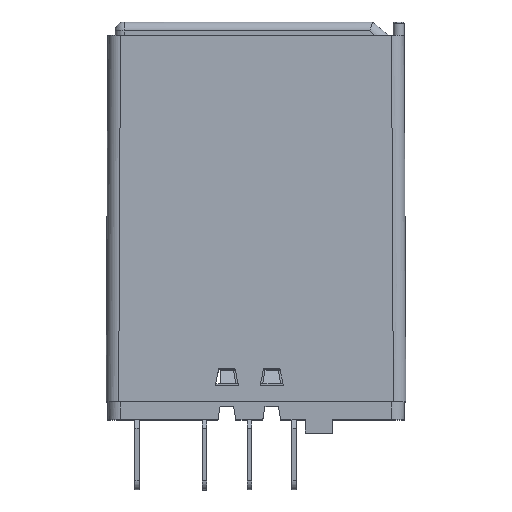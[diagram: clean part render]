
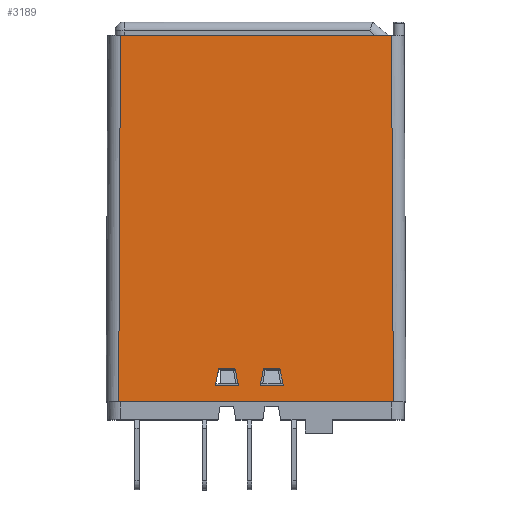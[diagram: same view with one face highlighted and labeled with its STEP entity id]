
A CAD part, top view. The second image highlights one B-rep face of the part: STEP entity #3189.
In plain terms, the highlighted planar face has unit normal (0, 0.005, 1).
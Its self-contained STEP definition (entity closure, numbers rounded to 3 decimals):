
#3189=ADVANCED_FACE('',(#9131,#9133,#9135),#9137,.T.);
#9131=FACE_BOUND('',#9132,.T.);
#9132=EDGE_LOOP('',(#14019,#14020,#14021,#14022));
#9133=FACE_BOUND('',#9134,.T.);
#9134=EDGE_LOOP('',(#14023,#14024,#14025,#14026));
#9135=FACE_BOUND('',#9136,.T.);
#9136=EDGE_LOOP('',(#14027,#14028,#14029,#14030));
#9137=PLANE('',#9138);
#9138=AXIS2_PLACEMENT_3D('',#9139,#9140,#9141);
#9139=CARTESIAN_POINT('',(15.1,44.3,13.75));
#9140=DIRECTION('',(0.,0.005,1.));
#9141=DIRECTION('',(-1.,0.,0.));
#14019=ORIENTED_EDGE('',*,*,#16359,.F.);
#14020=ORIENTED_EDGE('',*,*,#16691,.F.);
#14021=ORIENTED_EDGE('',*,*,#16933,.T.);
#14022=ORIENTED_EDGE('',*,*,#16934,.T.);
#14023=ORIENTED_EDGE('',*,*,#16935,.T.);
#14024=ORIENTED_EDGE('',*,*,#16936,.T.);
#14025=ORIENTED_EDGE('',*,*,#16937,.T.);
#14026=ORIENTED_EDGE('',*,*,#16938,.T.);
#14027=ORIENTED_EDGE('',*,*,#16939,.T.);
#14028=ORIENTED_EDGE('',*,*,#16940,.T.);
#14029=ORIENTED_EDGE('',*,*,#16941,.T.);
#14030=ORIENTED_EDGE('',*,*,#16942,.T.);
#16359=EDGE_CURVE('',#18759,#18761,#18762,.T.);
#16691=EDGE_CURVE('',#19286,#18759,#19288,.T.);
#16933=EDGE_CURVE('',#19286,#19709,#19710,.T.);
#16934=EDGE_CURVE('',#19709,#18761,#19711,.T.);
#16935=EDGE_CURVE('',#19712,#19713,#19714,.F.);
#16936=EDGE_CURVE('',#19713,#19715,#19716,.F.);
#16937=EDGE_CURVE('',#19715,#19717,#19718,.F.);
#16938=EDGE_CURVE('',#19717,#19712,#19719,.F.);
#16939=EDGE_CURVE('',#19720,#19721,#19722,.F.);
#16940=EDGE_CURVE('',#19721,#19723,#19724,.F.);
#16941=EDGE_CURVE('',#19723,#19725,#19726,.F.);
#16942=EDGE_CURVE('',#19725,#19720,#19727,.F.);
#18759=VERTEX_POINT('',#23298);
#18761=VERTEX_POINT('',#23303);
#18762=LINE('',#23304,#23305);
#19286=VERTEX_POINT('',#24534);
#19288=LINE('',#24539,#24540);
#19709=VERTEX_POINT('',#25500);
#19710=LINE('',#25501,#25502);
#19711=LINE('',#25504,#25505);
#19712=VERTEX_POINT('',#25507);
#19713=VERTEX_POINT('',#25508);
#19714=LINE('',#25509,#25510);
#19715=VERTEX_POINT('',#25512);
#19716=LINE('',#25513,#25514);
#19717=VERTEX_POINT('',#25516);
#19718=LINE('',#25517,#25518);
#19719=LINE('',#25520,#25521);
#19720=VERTEX_POINT('',#25523);
#19721=VERTEX_POINT('',#25524);
#19722=LINE('',#25525,#25526);
#19723=VERTEX_POINT('',#25528);
#19724=LINE('',#25529,#25530);
#19725=VERTEX_POINT('',#25532);
#19726=LINE('',#25533,#25534);
#19727=LINE('',#25536,#25537);
#23298=CARTESIAN_POINT('',(15.3,3.5,13.95));
#23303=CARTESIAN_POINT('',(-15.3,3.5,13.95));
#23304=CARTESIAN_POINT('',(15.3,3.5,13.95));
#23305=VECTOR('',#23306,1.);
#23306=DIRECTION('',(-1.,0.,0.));
#24534=CARTESIAN_POINT('',(15.1,44.3,13.75));
#24539=CARTESIAN_POINT('',(15.1,44.3,13.75));
#24540=VECTOR('',#24541,1.);
#24541=DIRECTION('',(0.005,-1.,0.005));
#25500=CARTESIAN_POINT('',(-15.1,44.3,13.75));
#25501=CARTESIAN_POINT('',(15.1,44.3,13.75));
#25502=VECTOR('',#25503,1.);
#25503=DIRECTION('',(-1.,0.,0.));
#25504=CARTESIAN_POINT('',(-15.1,44.3,13.75));
#25505=VECTOR('',#25506,1.);
#25506=DIRECTION('',(-0.005,-1.,0.005));
#25507=CARTESIAN_POINT('',(-4.15,7.15,13.932));
#25508=CARTESIAN_POINT('',(-2.35,7.15,13.932));
#25509=CARTESIAN_POINT('',(-2.35,7.15,13.932));
#25510=VECTOR('',#25511,1.);
#25511=DIRECTION('',(-1.,0.,0.));
#25512=CARTESIAN_POINT('',(-1.95,5.35,13.941));
#25513=CARTESIAN_POINT('',(-1.95,5.35,13.941));
#25514=VECTOR('',#25515,1.);
#25515=DIRECTION('',(-0.217,0.976,-0.005));
#25516=CARTESIAN_POINT('',(-4.55,5.35,13.941));
#25517=CARTESIAN_POINT('',(-4.55,5.35,13.941));
#25518=VECTOR('',#25519,1.);
#25519=DIRECTION('',(1.,0.,0.));
#25520=CARTESIAN_POINT('',(-4.15,7.15,13.932));
#25521=VECTOR('',#25522,1.);
#25522=DIRECTION('',(-0.217,-0.976,0.005));
#25523=CARTESIAN_POINT('',(3.05,5.35,13.941));
#25524=CARTESIAN_POINT('',(0.45,5.35,13.941));
#25525=CARTESIAN_POINT('',(0.45,5.35,13.941));
#25526=VECTOR('',#25527,1.);
#25527=DIRECTION('',(1.,0.,0.));
#25528=CARTESIAN_POINT('',(0.85,7.15,13.932));
#25529=CARTESIAN_POINT('',(0.85,7.15,13.932));
#25530=VECTOR('',#25531,1.);
#25531=DIRECTION('',(-0.217,-0.976,0.005));
#25532=CARTESIAN_POINT('',(2.65,7.15,13.932));
#25533=CARTESIAN_POINT('',(2.65,7.15,13.932));
#25534=VECTOR('',#25535,1.);
#25535=DIRECTION('',(-1.,0.,0.));
#25536=CARTESIAN_POINT('',(3.05,5.35,13.941));
#25537=VECTOR('',#25538,1.);
#25538=DIRECTION('',(-0.217,0.976,-0.005));
